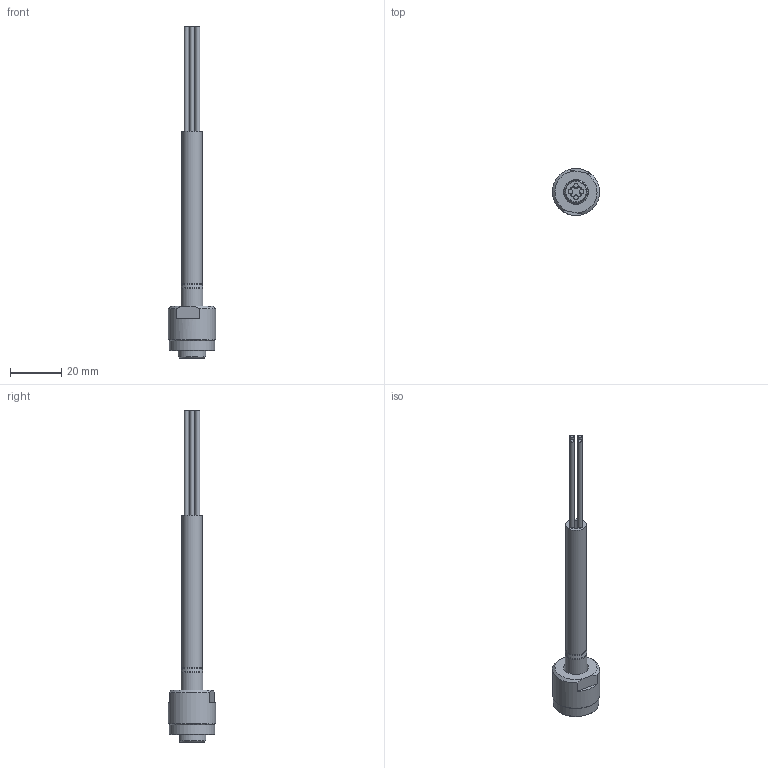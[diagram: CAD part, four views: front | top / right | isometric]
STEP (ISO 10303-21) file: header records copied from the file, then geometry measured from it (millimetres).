
FILE_DESCRIPTION (( 'STEP AP203' ), '1' );
FILE_NAME ('COB-124X.STEP', '2021-09-28T15:25:23', ( '' ), ( '' ), 'SwSTEP 2.0', 'SolidWorks 2020', '' );
FILE_SCHEMA (( 'CONFIG_CONTROL_DESIGN' ));
Length unit declared in the file: millimetre
Products named in the file (1): COB-124X
Bounding box: 18.49 x 18.49 x 130 mm (x, y, z)
Volume: 6686 mm3; surface area: 7750.2 mm2
Topology: 3 solids, 3 shells, 116 faces, 281 edges, 183 vertices
Faces by surface type: cylinder 39, plane 33, cone 22, torus 19, bspline 3
Full cylindrical faces by diameter (mm): 1.7 x4, 2 x4, 2.46 x1, 2.48 x3, 8 x1, 8.3 x1, 8.6 x1, 9.5 x1, 9.562 x1, 9.75 x1, 12 x2, 16 x1, 17.75 x1, 18.5 x1
Entity records: 4443 total; most frequent: CARTESIAN_POINT 2028, DIRECTION 489, ORIENTED_EDGE 432, AXIS2_PLACEMENT_3D 230, EDGE_CURVE 216, EDGE_LOOP 169, VERTEX_POINT 161, FACE_OUTER_BOUND 142
